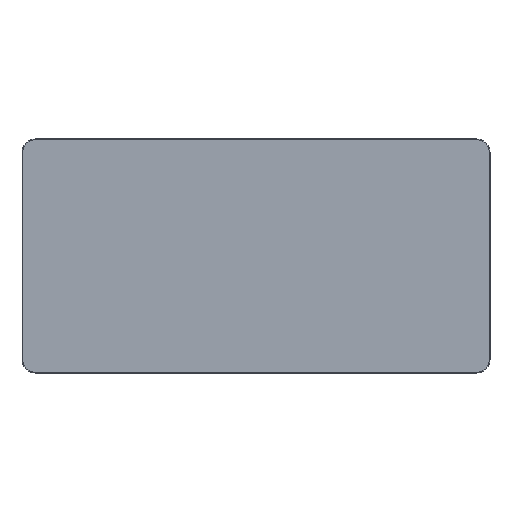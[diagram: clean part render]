
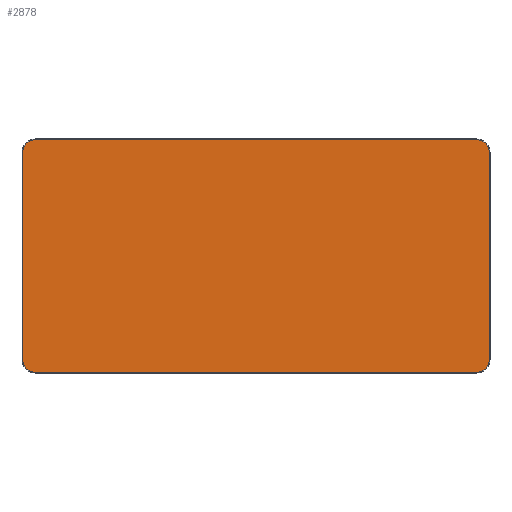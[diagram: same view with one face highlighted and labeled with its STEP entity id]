
A CAD part, top view. The second image highlights one B-rep face of the part: STEP entity #2878.
In plain terms, the highlighted planar face has unit normal (0, 0, 1).
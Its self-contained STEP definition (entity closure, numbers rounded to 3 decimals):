
#38 = AXIS2_PLACEMENT_3D ( 'NONE', #1643, #3558, #1921 ) ;
#92 = DIRECTION ( 'NONE',  ( 0., 0., 1. ) ) ;
#179 = LINE ( 'NONE', #349, #745 ) ;
#200 = FACE_OUTER_BOUND ( 'NONE', #2664, .T. ) ;
#201 = CARTESIAN_POINT ( 'NONE',  ( -349., 155., 10. ) ) ;
#205 = VERTEX_POINT ( 'NONE', #201 ) ;
#314 = AXIS2_PLACEMENT_3D ( 'NONE', #713, #2928, #1278 ) ;
#349 = CARTESIAN_POINT ( 'NONE',  ( -330., 174., 10. ) ) ;
#444 = CIRCLE ( 'NONE', #38, 19. ) ;
#455 = EDGE_CURVE ( 'NONE', #3481, #2287, #1730, .T. ) ;
#596 = EDGE_CURVE ( 'NONE', #1222, #825, #179, .T. ) ;
#713 = CARTESIAN_POINT ( 'NONE',  ( 0., 0., 10. ) ) ;
#726 = VECTOR ( 'NONE', #2901, 1000. ) ;
#743 = CARTESIAN_POINT ( 'NONE',  ( -349., -155., 10. ) ) ;
#745 = VECTOR ( 'NONE', #1448, 1000. ) ;
#825 = VERTEX_POINT ( 'NONE', #1026 ) ;
#828 = ORIENTED_EDGE ( 'NONE', *, *, #3398, .T. ) ;
#894 = EDGE_CURVE ( 'NONE', #205, #1648, #2421, .T. ) ;
#952 = AXIS2_PLACEMENT_3D ( 'NONE', #1738, #92, #2019 ) ;
#958 = ORIENTED_EDGE ( 'NONE', *, *, #2546, .T. ) ;
#984 = CARTESIAN_POINT ( 'NONE',  ( 349., 155., 10. ) ) ;
#1011 = VECTOR ( 'NONE', #1134, 1000. ) ;
#1026 = CARTESIAN_POINT ( 'NONE',  ( -330., 174., 10. ) ) ;
#1121 = ORIENTED_EDGE ( 'NONE', *, *, #1309, .T. ) ;
#1134 = DIRECTION ( 'NONE',  ( 1., 0., 0. ) ) ;
#1222 = VERTEX_POINT ( 'NONE', #2258 ) ;
#1249 = CARTESIAN_POINT ( 'NONE',  ( -330., 155., 10. ) ) ;
#1278 = DIRECTION ( 'NONE',  ( 1., 0., 0. ) ) ;
#1309 = EDGE_CURVE ( 'NONE', #2792, #1222, #444, .T. ) ;
#1421 = CARTESIAN_POINT ( 'NONE',  ( 330., -155., 10. ) ) ;
#1448 = DIRECTION ( 'NONE',  ( -1., 0., 0. ) ) ;
#1520 = DIRECTION ( 'NONE',  ( 1., 0., 0. ) ) ;
#1561 = AXIS2_PLACEMENT_3D ( 'NONE', #1249, #3177, #1520 ) ;
#1643 = CARTESIAN_POINT ( 'NONE',  ( 330., 155., 10. ) ) ;
#1648 = VERTEX_POINT ( 'NONE', #743 ) ;
#1682 = VECTOR ( 'NONE', #3250, 1000. ) ;
#1699 = DIRECTION ( 'NONE',  ( 1., 0., 0. ) ) ;
#1714 = VERTEX_POINT ( 'NONE', #2963 ) ;
#1730 = LINE ( 'NONE', #2774, #1011 ) ;
#1738 = CARTESIAN_POINT ( 'NONE',  ( -330., -155., 10. ) ) ;
#1892 = ORIENTED_EDGE ( 'NONE', *, *, #455, .T. ) ;
#1921 = DIRECTION ( 'NONE',  ( 1., 0., 0. ) ) ;
#1927 = EDGE_CURVE ( 'NONE', #2287, #1714, #3063, .T. ) ;
#2019 = DIRECTION ( 'NONE',  ( 1., 0., 0. ) ) ;
#2078 = CARTESIAN_POINT ( 'NONE',  ( -330., -174., 10. ) ) ;
#2082 = EDGE_CURVE ( 'NONE', #825, #205, #2797, .T. ) ;
#2184 = AXIS2_PLACEMENT_3D ( 'NONE', #1421, #3346, #1699 ) ;
#2258 = CARTESIAN_POINT ( 'NONE',  ( 330., 174., 10. ) ) ;
#2287 = VERTEX_POINT ( 'NONE', #2494 ) ;
#2371 = ORIENTED_EDGE ( 'NONE', *, *, #596, .T. ) ;
#2421 = LINE ( 'NONE', #2969, #1682 ) ;
#2494 = CARTESIAN_POINT ( 'NONE',  ( 330., -174., 10. ) ) ;
#2546 = EDGE_CURVE ( 'NONE', #1648, #3481, #3103, .T. ) ;
#2618 = CARTESIAN_POINT ( 'NONE',  ( 349., 155., 10. ) ) ;
#2664 = EDGE_LOOP ( 'NONE', ( #3191, #958, #1892, #3228, #828, #1121, #2371, #3061 ) ) ;
#2774 = CARTESIAN_POINT ( 'NONE',  ( 330., -174., 10. ) ) ;
#2792 = VERTEX_POINT ( 'NONE', #984 ) ;
#2797 = CIRCLE ( 'NONE', #1561, 19. ) ;
#2878 = ADVANCED_FACE ( 'NONE', ( #200 ), #3198, .T. ) ;
#2901 = DIRECTION ( 'NONE',  ( 0., 1., 0. ) ) ;
#2920 = LINE ( 'NONE', #2618, #726 ) ;
#2928 = DIRECTION ( 'NONE',  ( 0., 0., 1. ) ) ;
#2963 = CARTESIAN_POINT ( 'NONE',  ( 349., -155., 10. ) ) ;
#2969 = CARTESIAN_POINT ( 'NONE',  ( -349., -155., 10. ) ) ;
#3061 = ORIENTED_EDGE ( 'NONE', *, *, #2082, .T. ) ;
#3063 = CIRCLE ( 'NONE', #2184, 19. ) ;
#3103 = CIRCLE ( 'NONE', #952, 19. ) ;
#3177 = DIRECTION ( 'NONE',  ( 0., 0., 1. ) ) ;
#3191 = ORIENTED_EDGE ( 'NONE', *, *, #894, .T. ) ;
#3198 = PLANE ( 'NONE',  #314 ) ;
#3228 = ORIENTED_EDGE ( 'NONE', *, *, #1927, .T. ) ;
#3250 = DIRECTION ( 'NONE',  ( 0., -1., 0. ) ) ;
#3346 = DIRECTION ( 'NONE',  ( 0., 0., 1. ) ) ;
#3398 = EDGE_CURVE ( 'NONE', #1714, #2792, #2920, .T. ) ;
#3481 = VERTEX_POINT ( 'NONE', #2078 ) ;
#3558 = DIRECTION ( 'NONE',  ( 0., 0., 1. ) ) ;
